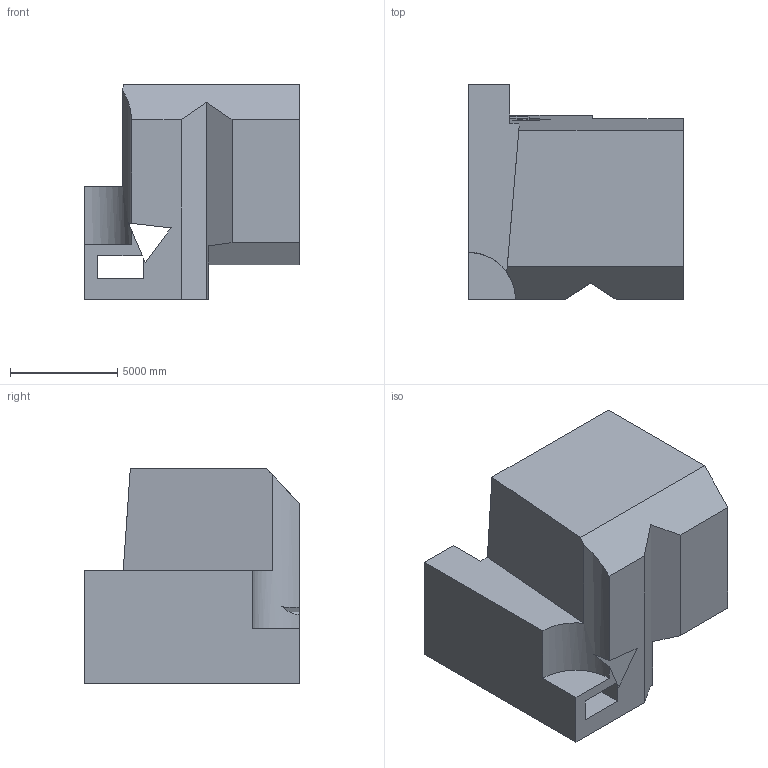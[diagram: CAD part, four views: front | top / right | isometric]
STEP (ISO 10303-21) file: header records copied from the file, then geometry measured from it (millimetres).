
FILE_DESCRIPTION (( 'STEP AP203' ), '1' );
FILE_NAME ('1775.STEP', '2022-08-19T12:47:05', ( 'user' ), ( '' ), 'SwSTEP 2.0', 'SolidWorks 2021', '' );
FILE_SCHEMA (( 'CONFIG_CONTROL_DESIGN' ));
Length unit declared in the file: centimetre
Products named in the file (1): 1775
Bounding box: 10000 x 10000 x 10000 mm (x, y, z)
Volume: 622865384995.4 mm3; surface area: 596984109.5 mm2
Topology: 1 solids, 1 shells, 28 faces, 84 edges, 56 vertices
Faces by surface type: plane 27, cylinder 1
Entity records: 1011 total; most frequent: CARTESIAN_POINT 178, ORIENTED_EDGE 168, DIRECTION 141, EDGE_CURVE 84, LINE 79, VECTOR 79, VERTEX_POINT 56, AXIS2_PLACEMENT_3D 31
